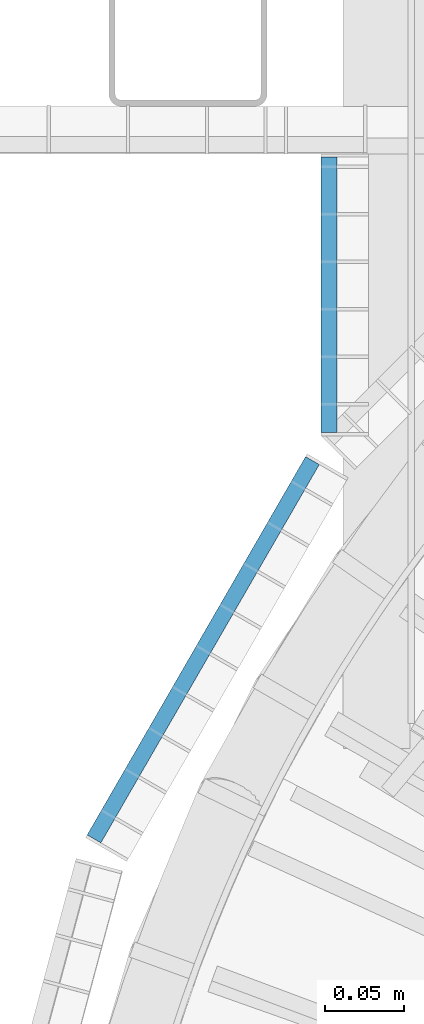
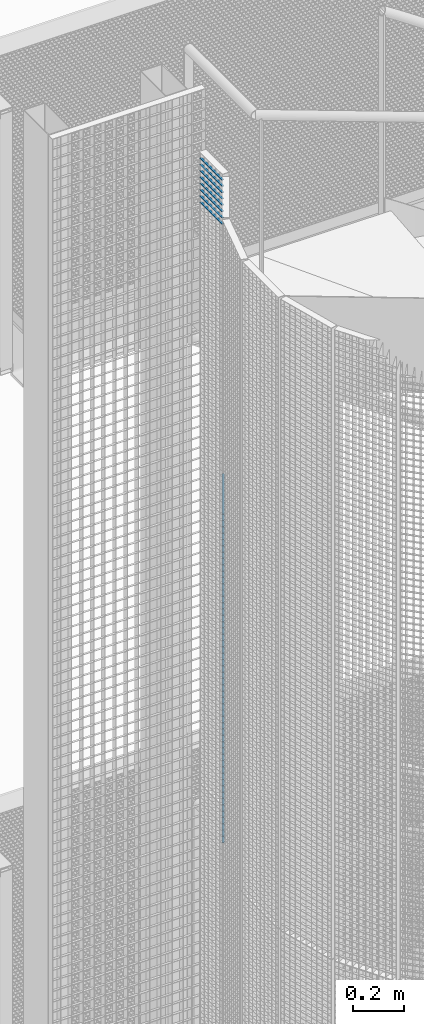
# One storey, part 186 of 1183: 61 beams, 2 elements without a shape of their own.
"""IFC2X3 building model written with IfcOpenShell, lengths in millimetres."""

from ifc_helpers import new_model, si_unit, frame, origin_with_axes, origin_2d_with_axis, place, context, subcontext, project, spatial, rectangle, extrude, material, type_object, element, aggregate, save


model = new_model("IFC2X3")

# Units and contexts
model_context = context("Model", 3, precision=1e-05, world=origin_with_axes())
body_context = subcontext(model_context, "Body", "Model", "MODEL_VIEW")
ifc_project = project(units=[si_unit("LENGTHUNIT", "METRE", prefix="MILLI"), si_unit("AREAUNIT", "SQUARE_METRE"), si_unit("VOLUMEUNIT", "CUBIC_METRE"), si_unit("MASSUNIT", "GRAM", prefix="KILO"), si_unit("TIMEUNIT", "SECOND"), si_unit("PLANEANGLEUNIT", "RADIAN"), si_unit("SOLIDANGLEUNIT", "STERADIAN"), si_unit("THERMODYNAMICTEMPERATUREUNIT", "DEGREE_CELSIUS"), si_unit("LUMINOUSINTENSITYUNIT", "LUMEN")], contexts=[model_context])

# Site, building, storey
site_placement = place(None, origin_with_axes())
site = spatial("IfcSite", under=ifc_project, at=site_placement, Name="Undefined", CompositionType="ELEMENT")
building_placement = place(site_placement, origin_with_axes())
building = spatial("IfcBuilding", under=site, at=building_placement, Name="Undefined", CompositionType="ELEMENT")
storey_placement = place(building_placement, origin_with_axes())
storey = spatial("IfcBuildingStorey", under=building, at=storey_placement, Name="Undefined", CompositionType="ELEMENT", Elevation=0.0)

# Assembly, beams
assembly_1_placement = place(storey_placement, origin_with_axes())
assembly_1 = element("IfcElementAssembly", 1, at=assembly_1_placement, inside=storey, Name="BORDURE", AssemblyPlace="NOTDEFINED", PredefinedType="NOTDEFINED")
ifc_material = material(Name="STEEL/S235JR")
beam_type = type_object("IfcBeamType", Name="PL2*10", PredefinedType="NOTDEFINED")
beam_1_placement = place(assembly_1_placement, frame((-895.303964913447, 676.248044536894, 16590.0), z_axis=(-0.866025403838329, 0.499999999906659, 0.0), x_axis=(-0.49999999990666, -0.866025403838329, 0.0)))
beam_1 = element("IfcBeam", 2, at=beam_1_placement, type_object=beam_type, material=ifc_material, Name="ENTRETOISE", context=body_context, shape_type="SweptSolid", body=[
    extrude(rectangle(XDim=2.0, YDim=10.0, at=origin_2d_with_axis()), frame((275.999999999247, 9.09494701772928e-13, 1.53210777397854e-14), z_axis=(-1.0, 0.0, 0.0), x_axis=(0.0, -1.0, 0.0)), (0.0, 0.0, 1.0), 276.0),
])
beam_2_placement = place(assembly_1_placement, frame((-895.303964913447, 676.248044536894, 16560.0), z_axis=(-0.866025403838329, 0.499999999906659, 0.0), x_axis=(-0.49999999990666, -0.866025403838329, 0.0)))
beam_2 = element("IfcBeam", 3, at=beam_2_placement, type_object=beam_type, material=ifc_material, Name="ENTRETOISE", context=body_context, shape_type="SweptSolid", body=[
    extrude(rectangle(XDim=2.0, YDim=10.0, at=origin_2d_with_axis()), frame((275.999999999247, 9.09494701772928e-13, 1.53210777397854e-14), z_axis=(-1.0, 0.0, 0.0), x_axis=(0.0, -1.0, 0.0)), (0.0, 0.0, 1.0), 276.0),
])
beam_3_placement = place(assembly_1_placement, frame((-895.303964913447, 676.248044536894, 16530.0), z_axis=(-0.866025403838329, 0.499999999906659, 0.0), x_axis=(-0.49999999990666, -0.866025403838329, 0.0)))
beam_3 = element("IfcBeam", 4, at=beam_3_placement, type_object=beam_type, material=ifc_material, Name="ENTRETOISE", context=body_context, shape_type="SweptSolid", body=[
    extrude(rectangle(XDim=2.0, YDim=10.0, at=origin_2d_with_axis()), frame((275.999999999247, 9.09494701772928e-13, 1.53210777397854e-14), z_axis=(-1.0, 0.0, 0.0), x_axis=(0.0, -1.0, 0.0)), (0.0, 0.0, 1.0), 276.0),
])
beam_4_placement = place(assembly_1_placement, frame((-895.303964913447, 676.248044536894, 16500.0), z_axis=(-0.866025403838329, 0.499999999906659, 0.0), x_axis=(-0.49999999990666, -0.866025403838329, 0.0)))
beam_4 = element("IfcBeam", 5, at=beam_4_placement, type_object=beam_type, material=ifc_material, Name="ENTRETOISE", context=body_context, shape_type="SweptSolid", body=[
    extrude(rectangle(XDim=2.0, YDim=10.0, at=origin_2d_with_axis()), frame((275.999999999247, 9.09494701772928e-13, 1.53210777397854e-14), z_axis=(-1.0, 0.0, 0.0), x_axis=(0.0, -1.0, 0.0)), (0.0, 0.0, 1.0), 276.0),
])
beam_5_placement = place(assembly_1_placement, frame((-895.303964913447, 676.248044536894, 16470.0), z_axis=(-0.866025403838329, 0.499999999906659, 0.0), x_axis=(-0.49999999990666, -0.866025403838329, 0.0)))
beam_5 = element("IfcBeam", 6, at=beam_5_placement, type_object=beam_type, material=ifc_material, Name="ENTRETOISE", context=body_context, shape_type="SweptSolid", body=[
    extrude(rectangle(XDim=2.0, YDim=10.0, at=origin_2d_with_axis()), frame((275.999999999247, 9.09494701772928e-13, 1.53210777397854e-14), z_axis=(-1.0, 0.0, 0.0), x_axis=(0.0, -1.0, 0.0)), (0.0, 0.0, 1.0), 276.0),
])
beam_6_placement = place(assembly_1_placement, frame((-895.303964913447, 676.248044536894, 16440.0), z_axis=(-0.866025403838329, 0.499999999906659, 0.0), x_axis=(-0.49999999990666, -0.866025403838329, 0.0)))
beam_6 = element("IfcBeam", 7, at=beam_6_placement, type_object=beam_type, material=ifc_material, Name="ENTRETOISE", context=body_context, shape_type="SweptSolid", body=[
    extrude(rectangle(XDim=2.0, YDim=10.0, at=origin_2d_with_axis()), frame((275.999999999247, 9.09494701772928e-13, 1.53210777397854e-14), z_axis=(-1.0, 0.0, 0.0), x_axis=(0.0, -1.0, 0.0)), (0.0, 0.0, 1.0), 276.0),
])
beam_7_placement = place(assembly_1_placement, frame((-895.303964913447, 676.248044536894, 16410.0), z_axis=(-0.866025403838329, 0.499999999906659, 0.0), x_axis=(-0.49999999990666, -0.866025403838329, 0.0)))
beam_7 = element("IfcBeam", 8, at=beam_7_placement, type_object=beam_type, material=ifc_material, Name="ENTRETOISE", context=body_context, shape_type="SweptSolid", body=[
    extrude(rectangle(XDim=2.0, YDim=10.0, at=origin_2d_with_axis()), frame((275.999999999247, 9.09494701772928e-13, 1.53210777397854e-14), z_axis=(-1.0, 0.0, 0.0), x_axis=(0.0, -1.0, 0.0)), (0.0, 0.0, 1.0), 276.0),
])
beam_8_placement = place(assembly_1_placement, frame((-895.303964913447, 676.248044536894, 16380.0), z_axis=(-0.866025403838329, 0.499999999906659, 0.0), x_axis=(-0.49999999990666, -0.866025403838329, 0.0)))
beam_8 = element("IfcBeam", 9, at=beam_8_placement, type_object=beam_type, material=ifc_material, Name="ENTRETOISE", context=body_context, shape_type="SweptSolid", body=[
    extrude(rectangle(XDim=2.0, YDim=10.0, at=origin_2d_with_axis()), frame((275.999999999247, 9.09494701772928e-13, 1.53210777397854e-14), z_axis=(-1.0, 0.0, 0.0), x_axis=(0.0, -1.0, 0.0)), (0.0, 0.0, 1.0), 276.0),
])
beam_9_placement = place(assembly_1_placement, frame((-895.303964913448, 676.248044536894, 16350.0), z_axis=(-0.866025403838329, 0.499999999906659, 0.0), x_axis=(-0.49999999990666, -0.866025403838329, 0.0)))
beam_9 = element("IfcBeam", 10, at=beam_9_placement, type_object=beam_type, material=ifc_material, Name="ENTRETOISE", context=body_context, shape_type="SweptSolid", body=[
    extrude(rectangle(XDim=2.0, YDim=10.0, at=origin_2d_with_axis()), frame((275.999999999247, 9.09494701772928e-13, 1.53210777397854e-14), z_axis=(-1.0, 0.0, 0.0), x_axis=(0.0, -1.0, 0.0)), (0.0, 0.0, 1.0), 276.0),
])
beam_10_placement = place(assembly_1_placement, frame((-895.303964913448, 676.248044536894, 16320.0), z_axis=(-0.866025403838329, 0.499999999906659, 0.0), x_axis=(-0.49999999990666, -0.866025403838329, 0.0)))
beam_10 = element("IfcBeam", 11, at=beam_10_placement, type_object=beam_type, material=ifc_material, Name="ENTRETOISE", context=body_context, shape_type="SweptSolid", body=[
    extrude(rectangle(XDim=2.0, YDim=10.0, at=origin_2d_with_axis()), frame((275.999999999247, 9.09494701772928e-13, 1.53210777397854e-14), z_axis=(-1.0, 0.0, 0.0), x_axis=(0.0, -1.0, 0.0)), (0.0, 0.0, 1.0), 276.0),
])
beam_11_placement = place(assembly_1_placement, frame((-895.303964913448, 676.248044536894, 16290.0), z_axis=(-0.866025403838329, 0.499999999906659, 0.0), x_axis=(-0.49999999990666, -0.866025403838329, 0.0)))
beam_11 = element("IfcBeam", 12, at=beam_11_placement, type_object=beam_type, material=ifc_material, Name="ENTRETOISE", context=body_context, shape_type="SweptSolid", body=[
    extrude(rectangle(XDim=2.0, YDim=10.0, at=origin_2d_with_axis()), frame((275.999999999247, 9.09494701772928e-13, 1.53210777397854e-14), z_axis=(-1.0, 0.0, 0.0), x_axis=(0.0, -1.0, 0.0)), (0.0, 0.0, 1.0), 276.0),
])
beam_12_placement = place(assembly_1_placement, frame((-895.303964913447, 676.248044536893, 16260.0), z_axis=(-0.866025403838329, 0.499999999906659, 0.0), x_axis=(-0.49999999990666, -0.866025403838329, 0.0)))
beam_12 = element("IfcBeam", 13, at=beam_12_placement, type_object=beam_type, material=ifc_material, Name="ENTRETOISE", context=body_context, shape_type="SweptSolid", body=[
    extrude(rectangle(XDim=2.0, YDim=10.0, at=origin_2d_with_axis()), frame((275.999999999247, 9.09494701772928e-13, 1.53210777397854e-14), z_axis=(-1.0, 0.0, 0.0), x_axis=(0.0, -1.0, 0.0)), (0.0, 0.0, 1.0), 276.0),
])
beam_13_placement = place(assembly_1_placement, frame((-895.303964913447, 676.248044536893, 16230.0), z_axis=(-0.866025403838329, 0.499999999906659, 0.0), x_axis=(-0.49999999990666, -0.866025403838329, 0.0)))
beam_13 = element("IfcBeam", 14, at=beam_13_placement, type_object=beam_type, material=ifc_material, Name="ENTRETOISE", context=body_context, shape_type="SweptSolid", body=[
    extrude(rectangle(XDim=2.0, YDim=10.0, at=origin_2d_with_axis()), frame((275.999999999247, 9.09494701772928e-13, 1.53210777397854e-14), z_axis=(-1.0, 0.0, 0.0), x_axis=(0.0, -1.0, 0.0)), (0.0, 0.0, 1.0), 276.0),
])
beam_14_placement = place(assembly_1_placement, frame((-895.303964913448, 676.248044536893, 16200.0), z_axis=(-0.866025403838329, 0.499999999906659, 0.0), x_axis=(-0.49999999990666, -0.866025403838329, 0.0)))
beam_14 = element("IfcBeam", 15, at=beam_14_placement, type_object=beam_type, material=ifc_material, Name="ENTRETOISE", context=body_context, shape_type="SweptSolid", body=[
    extrude(rectangle(XDim=2.0, YDim=10.0, at=origin_2d_with_axis()), frame((275.999999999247, 9.09494701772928e-13, 1.53210777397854e-14), z_axis=(-1.0, 0.0, 0.0), x_axis=(0.0, -1.0, 0.0)), (0.0, 0.0, 1.0), 276.0),
])
beam_15_placement = place(assembly_1_placement, frame((-895.303964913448, 676.248044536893, 16170.0), z_axis=(-0.866025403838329, 0.499999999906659, 0.0), x_axis=(-0.49999999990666, -0.866025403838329, 0.0)))
beam_15 = element("IfcBeam", 16, at=beam_15_placement, type_object=beam_type, material=ifc_material, Name="ENTRETOISE", context=body_context, shape_type="SweptSolid", body=[
    extrude(rectangle(XDim=2.0, YDim=10.0, at=origin_2d_with_axis()), frame((275.999999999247, 9.09494701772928e-13, 1.53210777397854e-14), z_axis=(-1.0, 0.0, 0.0), x_axis=(0.0, -1.0, 0.0)), (0.0, 0.0, 1.0), 276.0),
])
beam_16_placement = place(assembly_1_placement, frame((-895.303964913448, 676.248044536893, 16140.0), z_axis=(-0.866025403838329, 0.499999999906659, 0.0), x_axis=(-0.49999999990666, -0.866025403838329, 0.0)))
beam_16 = element("IfcBeam", 17, at=beam_16_placement, type_object=beam_type, material=ifc_material, Name="ENTRETOISE", context=body_context, shape_type="SweptSolid", body=[
    extrude(rectangle(XDim=2.0, YDim=10.0, at=origin_2d_with_axis()), frame((275.999999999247, 9.09494701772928e-13, 1.53210777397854e-14), z_axis=(-1.0, 0.0, 0.0), x_axis=(0.0, -1.0, 0.0)), (0.0, 0.0, 1.0), 276.0),
])
beam_17_placement = place(assembly_1_placement, frame((-895.303964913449, 676.248044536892, 15720.0), z_axis=(-0.866025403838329, 0.499999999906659, 0.0), x_axis=(-0.49999999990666, -0.866025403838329, 0.0)))
beam_17 = element("IfcBeam", 18, at=beam_17_placement, type_object=beam_type, material=ifc_material, Name="ENTRETOISE", context=body_context, shape_type="SweptSolid", body=[
    extrude(rectangle(XDim=2.0, YDim=10.0, at=origin_2d_with_axis()), frame((275.999999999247, 9.09494701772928e-13, 1.53210777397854e-14), z_axis=(-1.0, 0.0, 0.0), x_axis=(0.0, -1.0, 0.0)), (0.0, 0.0, 1.0), 276.0),
])
beam_18_placement = place(assembly_1_placement, frame((-895.303964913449, 676.248044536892, 15690.0), z_axis=(-0.866025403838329, 0.499999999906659, 0.0), x_axis=(-0.49999999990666, -0.866025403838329, 0.0)))
beam_18 = element("IfcBeam", 19, at=beam_18_placement, type_object=beam_type, material=ifc_material, Name="ENTRETOISE", context=body_context, shape_type="SweptSolid", body=[
    extrude(rectangle(XDim=2.0, YDim=10.0, at=origin_2d_with_axis()), frame((275.999999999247, 9.09494701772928e-13, 1.53210777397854e-14), z_axis=(-1.0, 0.0, 0.0), x_axis=(0.0, -1.0, 0.0)), (0.0, 0.0, 1.0), 276.0),
])
beam_19_placement = place(assembly_1_placement, frame((-895.303964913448, 676.248044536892, 15750.0), z_axis=(-0.866025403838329, 0.499999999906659, 0.0), x_axis=(-0.49999999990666, -0.866025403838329, 0.0)))
beam_19 = element("IfcBeam", 20, at=beam_19_placement, type_object=beam_type, material=ifc_material, Name="ENTRETOISE", context=body_context, shape_type="SweptSolid", body=[
    extrude(rectangle(XDim=2.0, YDim=10.0, at=origin_2d_with_axis()), frame((275.999999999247, 9.09494701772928e-13, 1.53210777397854e-14), z_axis=(-1.0, 0.0, 0.0), x_axis=(0.0, -1.0, 0.0)), (0.0, 0.0, 1.0), 276.0),
])
beam_20_placement = place(assembly_1_placement, frame((-895.303964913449, 676.248044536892, 15660.0), z_axis=(-0.866025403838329, 0.499999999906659, 0.0), x_axis=(-0.49999999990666, -0.866025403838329, 0.0)))
beam_20 = element("IfcBeam", 21, at=beam_20_placement, type_object=beam_type, material=ifc_material, Name="ENTRETOISE", context=body_context, shape_type="SweptSolid", body=[
    extrude(rectangle(XDim=2.0, YDim=10.0, at=origin_2d_with_axis()), frame((275.999999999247, 9.09494701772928e-13, 1.53210777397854e-14), z_axis=(-1.0, 0.0, 0.0), x_axis=(0.0, -1.0, 0.0)), (0.0, 0.0, 1.0), 276.0),
])
beam_21_placement = place(assembly_1_placement, frame((-895.303964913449, 676.248044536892, 15630.0), z_axis=(-0.866025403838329, 0.499999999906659, 0.0), x_axis=(-0.49999999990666, -0.866025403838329, 0.0)))
beam_21 = element("IfcBeam", 22, at=beam_21_placement, type_object=beam_type, material=ifc_material, Name="ENTRETOISE", context=body_context, shape_type="SweptSolid", body=[
    extrude(rectangle(XDim=2.0, YDim=10.0, at=origin_2d_with_axis()), frame((275.999999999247, 9.09494701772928e-13, 1.53210777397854e-14), z_axis=(-1.0, 0.0, 0.0), x_axis=(0.0, -1.0, 0.0)), (0.0, 0.0, 1.0), 276.0),
])
beam_22_placement = place(assembly_1_placement, frame((-895.303964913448, 676.248044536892, 15780.0), z_axis=(-0.866025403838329, 0.499999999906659, 0.0), x_axis=(-0.49999999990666, -0.866025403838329, 0.0)))
beam_22 = element("IfcBeam", 23, at=beam_22_placement, type_object=beam_type, material=ifc_material, Name="ENTRETOISE", context=body_context, shape_type="SweptSolid", body=[
    extrude(rectangle(XDim=2.0, YDim=10.0, at=origin_2d_with_axis()), frame((275.999999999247, 9.09494701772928e-13, 1.53210777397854e-14), z_axis=(-1.0, 0.0, 0.0), x_axis=(0.0, -1.0, 0.0)), (0.0, 0.0, 1.0), 276.0),
])
beam_23_placement = place(assembly_1_placement, frame((-895.303964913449, 676.248044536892, 15600.0), z_axis=(-0.866025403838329, 0.499999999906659, 0.0), x_axis=(-0.49999999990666, -0.866025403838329, 0.0)))
beam_23 = element("IfcBeam", 24, at=beam_23_placement, type_object=beam_type, material=ifc_material, Name="ENTRETOISE", context=body_context, shape_type="SweptSolid", body=[
    extrude(rectangle(XDim=2.0, YDim=10.0, at=origin_2d_with_axis()), frame((275.999999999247, 9.09494701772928e-13, 1.53210777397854e-14), z_axis=(-1.0, 0.0, 0.0), x_axis=(0.0, -1.0, 0.0)), (0.0, 0.0, 1.0), 276.0),
])
beam_24_placement = place(assembly_1_placement, frame((-895.303964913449, 676.248044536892, 15810.0), z_axis=(-0.866025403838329, 0.499999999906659, 0.0), x_axis=(-0.49999999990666, -0.866025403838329, 0.0)))
beam_24 = element("IfcBeam", 25, at=beam_24_placement, type_object=beam_type, material=ifc_material, Name="ENTRETOISE", context=body_context, shape_type="SweptSolid", body=[
    extrude(rectangle(XDim=2.0, YDim=10.0, at=origin_2d_with_axis()), frame((275.999999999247, 9.09494701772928e-13, 1.53210777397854e-14), z_axis=(-1.0, 0.0, 0.0), x_axis=(0.0, -1.0, 0.0)), (0.0, 0.0, 1.0), 276.0),
])
beam_25_placement = place(assembly_1_placement, frame((-895.303964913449, 676.248044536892, 15570.0), z_axis=(-0.866025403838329, 0.499999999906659, 0.0), x_axis=(-0.49999999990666, -0.866025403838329, 0.0)))
beam_25 = element("IfcBeam", 26, at=beam_25_placement, type_object=beam_type, material=ifc_material, Name="ENTRETOISE", context=body_context, shape_type="SweptSolid", body=[
    extrude(rectangle(XDim=2.0, YDim=10.0, at=origin_2d_with_axis()), frame((275.999999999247, 9.09494701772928e-13, 1.53210777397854e-14), z_axis=(-1.0, 0.0, 0.0), x_axis=(0.0, -1.0, 0.0)), (0.0, 0.0, 1.0), 276.0),
])
beam_26_placement = place(assembly_1_placement, frame((-895.303964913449, 676.248044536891, 15540.0), z_axis=(-0.866025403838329, 0.499999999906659, 0.0), x_axis=(-0.49999999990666, -0.866025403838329, 0.0)))
beam_26 = element("IfcBeam", 27, at=beam_26_placement, type_object=beam_type, material=ifc_material, Name="ENTRETOISE", context=body_context, shape_type="SweptSolid", body=[
    extrude(rectangle(XDim=2.0, YDim=10.0, at=origin_2d_with_axis()), frame((275.999999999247, 9.09494701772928e-13, 1.53210777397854e-14), z_axis=(-1.0, 0.0, 0.0), x_axis=(0.0, -1.0, 0.0)), (0.0, 0.0, 1.0), 276.0),
])
beam_27_placement = place(assembly_1_placement, frame((-895.303964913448, 676.248044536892, 15840.0), z_axis=(-0.866025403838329, 0.499999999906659, 0.0), x_axis=(-0.49999999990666, -0.866025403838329, 0.0)))
beam_27 = element("IfcBeam", 28, at=beam_27_placement, type_object=beam_type, material=ifc_material, Name="ENTRETOISE", context=body_context, shape_type="SweptSolid", body=[
    extrude(rectangle(XDim=2.0, YDim=10.0, at=origin_2d_with_axis()), frame((275.999999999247, 9.09494701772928e-13, 1.53210777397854e-14), z_axis=(-1.0, 0.0, 0.0), x_axis=(0.0, -1.0, 0.0)), (0.0, 0.0, 1.0), 276.0),
])
beam_28_placement = place(assembly_1_placement, frame((-895.303964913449, 676.248044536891, 15510.0), z_axis=(-0.866025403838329, 0.499999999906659, 0.0), x_axis=(-0.49999999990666, -0.866025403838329, 0.0)))
beam_28 = element("IfcBeam", 29, at=beam_28_placement, type_object=beam_type, material=ifc_material, Name="ENTRETOISE", context=body_context, shape_type="SweptSolid", body=[
    extrude(rectangle(XDim=2.0, YDim=10.0, at=origin_2d_with_axis()), frame((275.999999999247, 9.09494701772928e-13, 1.53210777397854e-14), z_axis=(-1.0, 0.0, 0.0), x_axis=(0.0, -1.0, 0.0)), (0.0, 0.0, 1.0), 276.0),
])
beam_29_placement = place(assembly_1_placement, frame((-895.303964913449, 676.248044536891, 15480.0), z_axis=(-0.866025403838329, 0.499999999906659, 0.0), x_axis=(-0.49999999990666, -0.866025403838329, 0.0)))
beam_29 = element("IfcBeam", 30, at=beam_29_placement, type_object=beam_type, material=ifc_material, Name="ENTRETOISE", context=body_context, shape_type="SweptSolid", body=[
    extrude(rectangle(XDim=2.0, YDim=10.0, at=origin_2d_with_axis()), frame((275.999999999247, 9.09494701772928e-13, 1.53210777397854e-14), z_axis=(-1.0, 0.0, 0.0), x_axis=(0.0, -1.0, 0.0)), (0.0, 0.0, 1.0), 276.0),
])
beam_30_placement = place(assembly_1_placement, frame((-895.303964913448, 676.248044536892, 15870.0), z_axis=(-0.866025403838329, 0.499999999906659, 0.0), x_axis=(-0.49999999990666, -0.866025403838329, 0.0)))
beam_30 = element("IfcBeam", 31, at=beam_30_placement, type_object=beam_type, material=ifc_material, Name="ENTRETOISE", context=body_context, shape_type="SweptSolid", body=[
    extrude(rectangle(XDim=2.0, YDim=10.0, at=origin_2d_with_axis()), frame((275.999999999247, 9.09494701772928e-13, 1.53210777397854e-14), z_axis=(-1.0, 0.0, 0.0), x_axis=(0.0, -1.0, 0.0)), (0.0, 0.0, 1.0), 276.0),
])
beam_31_placement = place(assembly_1_placement, frame((-895.303964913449, 676.248044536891, 15450.0), z_axis=(-0.866025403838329, 0.499999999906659, 0.0), x_axis=(-0.49999999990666, -0.866025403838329, 0.0)))
beam_31 = element("IfcBeam", 32, at=beam_31_placement, type_object=beam_type, material=ifc_material, Name="ENTRETOISE", context=body_context, shape_type="SweptSolid", body=[
    extrude(rectangle(XDim=2.0, YDim=10.0, at=origin_2d_with_axis()), frame((275.999999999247, 9.09494701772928e-13, 1.53210777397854e-14), z_axis=(-1.0, 0.0, 0.0), x_axis=(0.0, -1.0, 0.0)), (0.0, 0.0, 1.0), 276.0),
])
beam_32_placement = place(assembly_1_placement, frame((-895.303964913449, 676.248044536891, 15420.0), z_axis=(-0.866025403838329, 0.499999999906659, 0.0), x_axis=(-0.49999999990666, -0.866025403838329, 0.0)))
beam_32 = element("IfcBeam", 33, at=beam_32_placement, type_object=beam_type, material=ifc_material, Name="ENTRETOISE", context=body_context, shape_type="SweptSolid", body=[
    extrude(rectangle(XDim=2.0, YDim=10.0, at=origin_2d_with_axis()), frame((275.999999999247, 9.09494701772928e-13, 1.53210777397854e-14), z_axis=(-1.0, 0.0, 0.0), x_axis=(0.0, -1.0, 0.0)), (0.0, 0.0, 1.0), 276.0),
])
beam_33_placement = place(assembly_1_placement, frame((-895.303964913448, 676.248044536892, 15900.0), z_axis=(-0.866025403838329, 0.499999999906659, 0.0), x_axis=(-0.49999999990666, -0.866025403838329, 0.0)))
beam_33 = element("IfcBeam", 34, at=beam_33_placement, type_object=beam_type, material=ifc_material, Name="ENTRETOISE", context=body_context, shape_type="SweptSolid", body=[
    extrude(rectangle(XDim=2.0, YDim=10.0, at=origin_2d_with_axis()), frame((275.999999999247, 9.09494701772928e-13, 1.53210777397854e-14), z_axis=(-1.0, 0.0, 0.0), x_axis=(0.0, -1.0, 0.0)), (0.0, 0.0, 1.0), 276.0),
])
beam_34_placement = place(assembly_1_placement, frame((-895.30396491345, 676.248044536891, 15390.0), z_axis=(-0.866025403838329, 0.499999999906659, 0.0), x_axis=(-0.49999999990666, -0.866025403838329, 0.0)))
beam_34 = element("IfcBeam", 35, at=beam_34_placement, type_object=beam_type, material=ifc_material, Name="ENTRETOISE", context=body_context, shape_type="SweptSolid", body=[
    extrude(rectangle(XDim=2.0, YDim=10.0, at=origin_2d_with_axis()), frame((275.999999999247, 9.09494701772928e-13, 1.53210777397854e-14), z_axis=(-1.0, 0.0, 0.0), x_axis=(0.0, -1.0, 0.0)), (0.0, 0.0, 1.0), 276.0),
])
beam_35_placement = place(assembly_1_placement, frame((-895.303964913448, 676.248044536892, 15930.0), z_axis=(-0.866025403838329, 0.499999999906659, 0.0), x_axis=(-0.49999999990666, -0.866025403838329, 0.0)))
beam_35 = element("IfcBeam", 36, at=beam_35_placement, type_object=beam_type, material=ifc_material, Name="ENTRETOISE", context=body_context, shape_type="SweptSolid", body=[
    extrude(rectangle(XDim=2.0, YDim=10.0, at=origin_2d_with_axis()), frame((275.999999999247, 9.09494701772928e-13, 1.53210777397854e-14), z_axis=(-1.0, 0.0, 0.0), x_axis=(0.0, -1.0, 0.0)), (0.0, 0.0, 1.0), 276.0),
])
beam_36_placement = place(assembly_1_placement, frame((-895.30396491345, 676.248044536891, 15360.0), z_axis=(-0.866025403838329, 0.499999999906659, 0.0), x_axis=(-0.49999999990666, -0.866025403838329, 0.0)))
beam_36 = element("IfcBeam", 37, at=beam_36_placement, type_object=beam_type, material=ifc_material, Name="ENTRETOISE", context=body_context, shape_type="SweptSolid", body=[
    extrude(rectangle(XDim=2.0, YDim=10.0, at=origin_2d_with_axis()), frame((275.999999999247, 9.09494701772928e-13, 1.53210777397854e-14), z_axis=(-1.0, 0.0, 0.0), x_axis=(0.0, -1.0, 0.0)), (0.0, 0.0, 1.0), 276.0),
])
beam_37_placement = place(assembly_1_placement, frame((-895.303964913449, 676.248044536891, 15330.0), z_axis=(-0.866025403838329, 0.499999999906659, 0.0), x_axis=(-0.49999999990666, -0.866025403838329, 0.0)))
beam_37 = element("IfcBeam", 38, at=beam_37_placement, type_object=beam_type, material=ifc_material, Name="ENTRETOISE", context=body_context, shape_type="SweptSolid", body=[
    extrude(rectangle(XDim=2.0, YDim=10.0, at=origin_2d_with_axis()), frame((275.999999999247, 9.09494701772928e-13, 1.53210777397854e-14), z_axis=(-1.0, 0.0, 0.0), x_axis=(0.0, -1.0, 0.0)), (0.0, 0.0, 1.0), 276.0),
])
beam_38_placement = place(assembly_1_placement, frame((-895.303964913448, 676.248044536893, 15960.0), z_axis=(-0.866025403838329, 0.499999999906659, 0.0), x_axis=(-0.49999999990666, -0.866025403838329, 0.0)))
beam_38 = element("IfcBeam", 39, at=beam_38_placement, type_object=beam_type, material=ifc_material, Name="ENTRETOISE", context=body_context, shape_type="SweptSolid", body=[
    extrude(rectangle(XDim=2.0, YDim=10.0, at=origin_2d_with_axis()), frame((275.999999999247, 9.09494701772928e-13, 1.53210777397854e-14), z_axis=(-1.0, 0.0, 0.0), x_axis=(0.0, -1.0, 0.0)), (0.0, 0.0, 1.0), 276.0),
])
beam_39_placement = place(assembly_1_placement, frame((-895.303964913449, 676.248044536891, 15300.0), z_axis=(-0.866025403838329, 0.499999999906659, 0.0), x_axis=(-0.49999999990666, -0.866025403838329, 0.0)))
beam_39 = element("IfcBeam", 40, at=beam_39_placement, type_object=beam_type, material=ifc_material, Name="ENTRETOISE", context=body_context, shape_type="SweptSolid", body=[
    extrude(rectangle(XDim=2.0, YDim=10.0, at=origin_2d_with_axis()), frame((275.999999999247, 9.09494701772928e-13, 1.53210777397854e-14), z_axis=(-1.0, 0.0, 0.0), x_axis=(0.0, -1.0, 0.0)), (0.0, 0.0, 1.0), 276.0),
])
beam_40_placement = place(assembly_1_placement, frame((-895.303964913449, 676.248044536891, 15270.0), z_axis=(-0.866025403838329, 0.499999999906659, 0.0), x_axis=(-0.49999999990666, -0.866025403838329, 0.0)))
beam_40 = element("IfcBeam", 41, at=beam_40_placement, type_object=beam_type, material=ifc_material, Name="ENTRETOISE", context=body_context, shape_type="SweptSolid", body=[
    extrude(rectangle(XDim=2.0, YDim=10.0, at=origin_2d_with_axis()), frame((275.999999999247, 9.09494701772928e-13, 1.53210777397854e-14), z_axis=(-1.0, 0.0, 0.0), x_axis=(0.0, -1.0, 0.0)), (0.0, 0.0, 1.0), 276.0),
])
beam_41_placement = place(assembly_1_placement, frame((-895.303964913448, 676.248044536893, 15990.0), z_axis=(-0.866025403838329, 0.499999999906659, 0.0), x_axis=(-0.49999999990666, -0.866025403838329, 0.0)))
beam_41 = element("IfcBeam", 42, at=beam_41_placement, type_object=beam_type, material=ifc_material, Name="ENTRETOISE", context=body_context, shape_type="SweptSolid", body=[
    extrude(rectangle(XDim=2.0, YDim=10.0, at=origin_2d_with_axis()), frame((275.999999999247, 9.09494701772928e-13, 1.53210777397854e-14), z_axis=(-1.0, 0.0, 0.0), x_axis=(0.0, -1.0, 0.0)), (0.0, 0.0, 1.0), 276.0),
])
beam_42_placement = place(assembly_1_placement, frame((-895.303964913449, 676.24804453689, 15240.0), z_axis=(-0.866025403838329, 0.499999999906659, 0.0), x_axis=(-0.49999999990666, -0.866025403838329, 0.0)))
beam_42 = element("IfcBeam", 43, at=beam_42_placement, type_object=beam_type, material=ifc_material, Name="ENTRETOISE", context=body_context, shape_type="SweptSolid", body=[
    extrude(rectangle(XDim=2.0, YDim=10.0, at=origin_2d_with_axis()), frame((275.999999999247, 9.09494701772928e-13, 1.53210777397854e-14), z_axis=(-1.0, 0.0, 0.0), x_axis=(0.0, -1.0, 0.0)), (0.0, 0.0, 1.0), 276.0),
])
beam_43_placement = place(assembly_1_placement, frame((-895.303964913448, 676.248044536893, 16020.0), z_axis=(-0.866025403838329, 0.499999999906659, 0.0), x_axis=(-0.49999999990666, -0.866025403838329, 0.0)))
beam_43 = element("IfcBeam", 44, at=beam_43_placement, type_object=beam_type, material=ifc_material, Name="ENTRETOISE", context=body_context, shape_type="SweptSolid", body=[
    extrude(rectangle(XDim=2.0, YDim=10.0, at=origin_2d_with_axis()), frame((275.999999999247, 9.09494701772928e-13, 1.53210777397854e-14), z_axis=(-1.0, 0.0, 0.0), x_axis=(0.0, -1.0, 0.0)), (0.0, 0.0, 1.0), 276.0),
])
beam_44_placement = place(assembly_1_placement, frame((-895.303964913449, 676.24804453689, 15210.0), z_axis=(-0.866025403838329, 0.499999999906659, 0.0), x_axis=(-0.49999999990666, -0.866025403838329, 0.0)))
beam_44 = element("IfcBeam", 45, at=beam_44_placement, type_object=beam_type, material=ifc_material, Name="ENTRETOISE", context=body_context, shape_type="SweptSolid", body=[
    extrude(rectangle(XDim=2.0, YDim=10.0, at=origin_2d_with_axis()), frame((275.999999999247, 9.09494701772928e-13, 1.53210777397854e-14), z_axis=(-1.0, 0.0, 0.0), x_axis=(0.0, -1.0, 0.0)), (0.0, 0.0, 1.0), 276.0),
])
beam_45_placement = place(assembly_1_placement, frame((-895.30396491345, 676.24804453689, 15180.0), z_axis=(-0.866025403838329, 0.499999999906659, 0.0), x_axis=(-0.49999999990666, -0.866025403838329, 0.0)))
beam_45 = element("IfcBeam", 46, at=beam_45_placement, type_object=beam_type, material=ifc_material, Name="ENTRETOISE", context=body_context, shape_type="SweptSolid", body=[
    extrude(rectangle(XDim=2.0, YDim=10.0, at=origin_2d_with_axis()), frame((275.999999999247, 9.09494701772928e-13, 1.53210777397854e-14), z_axis=(-1.0, 0.0, 0.0), x_axis=(0.0, -1.0, 0.0)), (0.0, 0.0, 1.0), 276.0),
])
beam_46_placement = place(assembly_1_placement, frame((-895.303964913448, 676.248044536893, 16050.0), z_axis=(-0.866025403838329, 0.499999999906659, 0.0), x_axis=(-0.49999999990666, -0.866025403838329, 0.0)))
beam_46 = element("IfcBeam", 47, at=beam_46_placement, type_object=beam_type, material=ifc_material, Name="ENTRETOISE", context=body_context, shape_type="SweptSolid", body=[
    extrude(rectangle(XDim=2.0, YDim=10.0, at=origin_2d_with_axis()), frame((275.999999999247, 9.09494701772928e-13, 1.53210777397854e-14), z_axis=(-1.0, 0.0, 0.0), x_axis=(0.0, -1.0, 0.0)), (0.0, 0.0, 1.0), 276.0),
])
beam_47_placement = place(assembly_1_placement, frame((-895.30396491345, 676.24804453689, 15150.0), z_axis=(-0.866025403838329, 0.499999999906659, 0.0), x_axis=(-0.49999999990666, -0.866025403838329, 0.0)))
beam_47 = element("IfcBeam", 48, at=beam_47_placement, type_object=beam_type, material=ifc_material, Name="ENTRETOISE", context=body_context, shape_type="SweptSolid", body=[
    extrude(rectangle(XDim=2.0, YDim=10.0, at=origin_2d_with_axis()), frame((275.999999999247, 9.09494701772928e-13, 1.53210777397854e-14), z_axis=(-1.0, 0.0, 0.0), x_axis=(0.0, -1.0, 0.0)), (0.0, 0.0, 1.0), 276.0),
])
beam_48_placement = place(assembly_1_placement, frame((-895.30396491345, 676.24804453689, 15120.0), z_axis=(-0.866025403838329, 0.499999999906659, 0.0), x_axis=(-0.49999999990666, -0.866025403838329, 0.0)))
beam_48 = element("IfcBeam", 49, at=beam_48_placement, type_object=beam_type, material=ifc_material, Name="ENTRETOISE", context=body_context, shape_type="SweptSolid", body=[
    extrude(rectangle(XDim=2.0, YDim=10.0, at=origin_2d_with_axis()), frame((275.999999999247, 9.09494701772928e-13, 1.53210777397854e-14), z_axis=(-1.0, 0.0, 0.0), x_axis=(0.0, -1.0, 0.0)), (0.0, 0.0, 1.0), 276.0),
])
beam_49_placement = place(assembly_1_placement, frame((-895.303964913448, 676.248044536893, 16080.0), z_axis=(-0.866025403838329, 0.499999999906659, 0.0), x_axis=(-0.49999999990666, -0.866025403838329, 0.0)))
beam_49 = element("IfcBeam", 50, at=beam_49_placement, type_object=beam_type, material=ifc_material, Name="ENTRETOISE", context=body_context, shape_type="SweptSolid", body=[
    extrude(rectangle(XDim=2.0, YDim=10.0, at=origin_2d_with_axis()), frame((275.999999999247, 9.09494701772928e-13, 1.53210777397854e-14), z_axis=(-1.0, 0.0, 0.0), x_axis=(0.0, -1.0, 0.0)), (0.0, 0.0, 1.0), 276.0),
])
beam_50_placement = place(assembly_1_placement, frame((-895.30396491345, 676.24804453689, 15090.0), z_axis=(-0.866025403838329, 0.499999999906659, 0.0), x_axis=(-0.49999999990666, -0.866025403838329, 0.0)))
beam_50 = element("IfcBeam", 51, at=beam_50_placement, type_object=beam_type, material=ifc_material, Name="ENTRETOISE", context=body_context, shape_type="SweptSolid", body=[
    extrude(rectangle(XDim=2.0, YDim=10.0, at=origin_2d_with_axis()), frame((275.999999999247, 9.09494701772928e-13, 1.53210777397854e-14), z_axis=(-1.0, 0.0, 0.0), x_axis=(0.0, -1.0, 0.0)), (0.0, 0.0, 1.0), 276.0),
])
beam_51_placement = place(assembly_1_placement, frame((-895.30396491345, 676.24804453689, 15060.0), z_axis=(-0.866025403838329, 0.499999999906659, 0.0), x_axis=(-0.49999999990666, -0.866025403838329, 0.0)))
beam_51 = element("IfcBeam", 52, at=beam_51_placement, type_object=beam_type, material=ifc_material, Name="ENTRETOISE", context=body_context, shape_type="SweptSolid", body=[
    extrude(rectangle(XDim=2.0, YDim=10.0, at=origin_2d_with_axis()), frame((275.999999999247, 9.09494701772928e-13, 1.53210777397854e-14), z_axis=(-1.0, 0.0, 0.0), x_axis=(0.0, -1.0, 0.0)), (0.0, 0.0, 1.0), 276.0),
])
beam_52_placement = place(assembly_1_placement, frame((-895.303964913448, 676.248044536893, 16110.0), z_axis=(-0.866025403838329, 0.499999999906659, 0.0), x_axis=(-0.49999999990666, -0.866025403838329, 0.0)))
beam_52 = element("IfcBeam", 53, at=beam_52_placement, type_object=beam_type, material=ifc_material, Name="ENTRETOISE", context=body_context, shape_type="SweptSolid", body=[
    extrude(rectangle(XDim=2.0, YDim=10.0, at=origin_2d_with_axis()), frame((275.999999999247, 9.09494701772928e-13, 1.53210777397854e-14), z_axis=(-1.0, 0.0, 0.0), x_axis=(0.0, -1.0, 0.0)), (0.0, 0.0, 1.0), 276.0),
])
beam_53_placement = place(assembly_1_placement, frame((-895.30396491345, 676.248044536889, 15030.0), z_axis=(-0.866025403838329, 0.499999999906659, 0.0), x_axis=(-0.49999999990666, -0.866025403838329, 0.0)))
beam_53 = element("IfcBeam", 54, at=beam_53_placement, type_object=beam_type, material=ifc_material, Name="ENTRETOISE", context=body_context, shape_type="SweptSolid", body=[
    extrude(rectangle(XDim=2.0, YDim=10.0, at=origin_2d_with_axis()), frame((275.999999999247, 9.09494701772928e-13, 1.53210777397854e-14), z_axis=(-1.0, 0.0, 0.0), x_axis=(0.0, -1.0, 0.0)), (0.0, 0.0, 1.0), 276.0),
])
aggregate(assembly_1, [beam_1, beam_2, beam_3, beam_4, beam_5, beam_6, beam_7, beam_8, beam_9, beam_10, beam_11, beam_12, beam_13, beam_14, beam_15, beam_16, beam_17, beam_18, beam_19, beam_20, beam_21, beam_22, beam_23, beam_24, beam_25, beam_26, beam_27, beam_28, beam_29, beam_30, beam_31, beam_32, beam_33, beam_34, beam_35, beam_36, beam_37, beam_38, beam_39, beam_40, beam_41, beam_42, beam_43, beam_44, beam_45, beam_46, beam_47, beam_48, beam_49, beam_50, beam_51, beam_52, beam_53])

assembly_2_placement = place(storey_placement, origin_with_axes())
assembly_2 = element("IfcElementAssembly", 55, at=assembly_2_placement, inside=storey, Name="BORDURE", AssemblyPlace="NOTDEFINED", PredefinedType="NOTDEFINED")
beam_54_placement = place(assembly_2_placement, frame((-884.882567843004, 867.997017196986, 17970.0), z_axis=(-1.0, 0.0, 0.0), x_axis=(0.0, -1.0, 0.0)))
beam_54 = element("IfcBeam", 56, at=beam_54_placement, type_object=beam_type, material=ifc_material, Name="ENTRETOISE", context=body_context, shape_type="SweptSolid", body=[
    extrude(rectangle(XDim=2.0, YDim=10.0, at=origin_2d_with_axis()), frame((174.109999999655, 0.0, 0.0), z_axis=(-1.0, 0.0, 0.0), x_axis=(0.0, -1.0, 0.0)), (0.0, 0.0, 1.0), 174.11),
])
beam_55_placement = place(assembly_2_placement, frame((-884.882567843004, 867.997017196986, 17940.0), z_axis=(-1.0, 0.0, 0.0), x_axis=(0.0, -1.0, 0.0)))
beam_55 = element("IfcBeam", 57, at=beam_55_placement, type_object=beam_type, material=ifc_material, Name="ENTRETOISE", context=body_context, shape_type="SweptSolid", body=[
    extrude(rectangle(XDim=2.0, YDim=10.0, at=origin_2d_with_axis()), frame((174.109999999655, 0.0, 0.0), z_axis=(-1.0, 0.0, 0.0), x_axis=(0.0, -1.0, 0.0)), (0.0, 0.0, 1.0), 174.11),
])
beam_56_placement = place(assembly_2_placement, frame((-884.882567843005, 867.997017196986, 17910.0), z_axis=(-1.0, 0.0, 0.0), x_axis=(0.0, -1.0, 0.0)))
beam_56 = element("IfcBeam", 58, at=beam_56_placement, type_object=beam_type, material=ifc_material, Name="ENTRETOISE", context=body_context, shape_type="SweptSolid", body=[
    extrude(rectangle(XDim=2.0, YDim=10.0, at=origin_2d_with_axis()), frame((174.109999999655, 0.0, 0.0), z_axis=(-1.0, 0.0, 0.0), x_axis=(0.0, -1.0, 0.0)), (0.0, 0.0, 1.0), 174.11),
])
beam_57_placement = place(assembly_2_placement, frame((-884.882567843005, 867.997017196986, 17880.0), z_axis=(-1.0, 0.0, 0.0), x_axis=(0.0, -1.0, 0.0)))
beam_57 = element("IfcBeam", 59, at=beam_57_placement, type_object=beam_type, material=ifc_material, Name="ENTRETOISE", context=body_context, shape_type="SweptSolid", body=[
    extrude(rectangle(XDim=2.0, YDim=10.0, at=origin_2d_with_axis()), frame((174.109999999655, 0.0, 0.0), z_axis=(-1.0, 0.0, 0.0), x_axis=(0.0, -1.0, 0.0)), (0.0, 0.0, 1.0), 174.11),
])
beam_58_placement = place(assembly_2_placement, frame((-884.882567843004, 867.997017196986, 17850.0), z_axis=(-1.0, 0.0, 0.0), x_axis=(0.0, -1.0, 0.0)))
beam_58 = element("IfcBeam", 60, at=beam_58_placement, type_object=beam_type, material=ifc_material, Name="ENTRETOISE", context=body_context, shape_type="SweptSolid", body=[
    extrude(rectangle(XDim=2.0, YDim=10.0, at=origin_2d_with_axis()), frame((174.109999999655, 0.0, 0.0), z_axis=(-1.0, 0.0, 0.0), x_axis=(0.0, -1.0, 0.0)), (0.0, 0.0, 1.0), 174.11),
])
beam_59_placement = place(assembly_2_placement, frame((-884.882567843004, 867.997017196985, 17820.0), z_axis=(-1.0, 0.0, 0.0), x_axis=(0.0, -1.0, 0.0)))
beam_59 = element("IfcBeam", 61, at=beam_59_placement, type_object=beam_type, material=ifc_material, Name="ENTRETOISE", context=body_context, shape_type="SweptSolid", body=[
    extrude(rectangle(XDim=2.0, YDim=10.0, at=origin_2d_with_axis()), frame((174.109999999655, 0.0, 0.0), z_axis=(-1.0, 0.0, 0.0), x_axis=(0.0, -1.0, 0.0)), (0.0, 0.0, 1.0), 174.11),
])
beam_60_placement = place(assembly_2_placement, frame((-884.882567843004, 867.997017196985, 17790.0), z_axis=(-1.0, 0.0, 0.0), x_axis=(0.0, -1.0, 0.0)))
beam_60 = element("IfcBeam", 62, at=beam_60_placement, type_object=beam_type, material=ifc_material, Name="ENTRETOISE", context=body_context, shape_type="SweptSolid", body=[
    extrude(rectangle(XDim=2.0, YDim=10.0, at=origin_2d_with_axis()), frame((174.109999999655, 0.0, 0.0), z_axis=(-1.0, 0.0, 0.0), x_axis=(0.0, -1.0, 0.0)), (0.0, 0.0, 1.0), 174.11),
])
beam_61_placement = place(assembly_2_placement, frame((-884.882567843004, 867.997017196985, 17760.0), z_axis=(-1.0, 0.0, 0.0), x_axis=(0.0, -1.0, 0.0)))
beam_61 = element("IfcBeam", 63, at=beam_61_placement, type_object=beam_type, material=ifc_material, Name="ENTRETOISE", context=body_context, shape_type="SweptSolid", body=[
    extrude(rectangle(XDim=2.0, YDim=10.0, at=origin_2d_with_axis()), frame((174.109999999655, 0.0, 0.0), z_axis=(-1.0, 0.0, 0.0), x_axis=(0.0, -1.0, 0.0)), (0.0, 0.0, 1.0), 174.11),
])
aggregate(assembly_2, [beam_54, beam_55, beam_56, beam_57, beam_58, beam_59, beam_60, beam_61])

save(model, "model.ifc")
